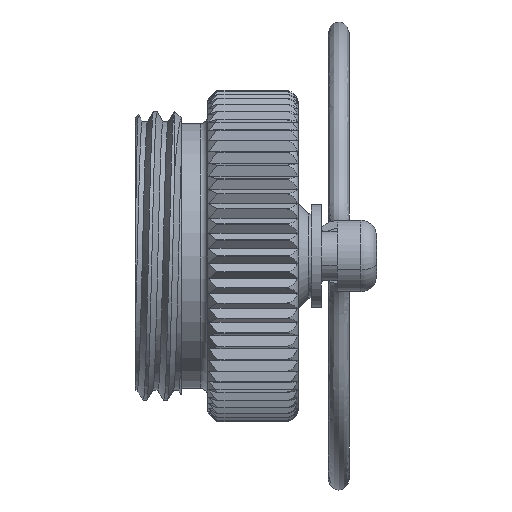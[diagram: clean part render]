
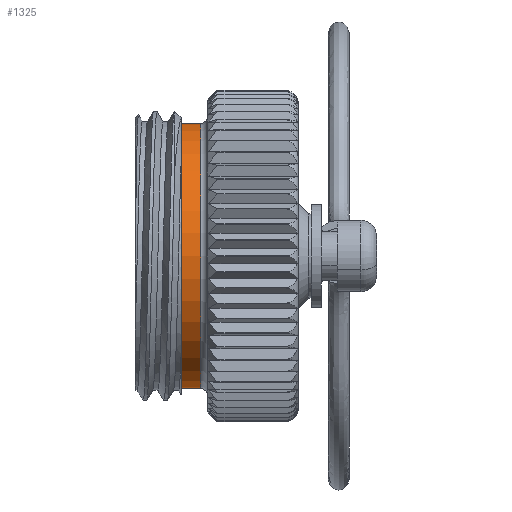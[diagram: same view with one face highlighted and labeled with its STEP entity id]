
A CAD part, front view. The second image highlights one B-rep face of the part: STEP entity #1325.
In plain terms, the highlighted cylindrical face has radius 10.16 mm (diameter 20.32 mm), a partial arc.
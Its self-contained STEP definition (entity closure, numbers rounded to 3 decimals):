
#1133 = ORIENTED_EDGE ( 'NONE', *, *, #6841, .T. ) ;
#1206 = DIRECTION ( 'NONE',  ( -1., 0., 0. ) ) ;
#1242 = CARTESIAN_POINT ( 'NONE',  ( -7.9, 0., -10.16 ) ) ;
#1243 = VECTOR ( 'NONE', #11337, 1000. ) ;
#1325 = ADVANCED_FACE ( 'NONE', ( #14149 ), #6546, .T. ) ;
#1551 = ORIENTED_EDGE ( 'NONE', *, *, #11313, .T. ) ;
#1773 = VERTEX_POINT ( 'NONE', #1930 ) ;
#1930 = CARTESIAN_POINT ( 'NONE',  ( -2., 0., -10.16 ) ) ;
#2182 = DIRECTION ( 'NONE',  ( 0., 0., 1. ) ) ;
#2915 = CARTESIAN_POINT ( 'NONE',  ( -0.5, 0., 10.16 ) ) ;
#3122 = AXIS2_PLACEMENT_3D ( 'NONE', #13555, #7225, #2182 ) ;
#3166 = VERTEX_POINT ( 'NONE', #8163 ) ;
#3413 = EDGE_CURVE ( 'NONE', #3166, #1773, #11140, .T. ) ;
#3424 = DIRECTION ( 'NONE',  ( -1., 0., 0. ) ) ;
#3843 = AXIS2_PLACEMENT_3D ( 'NONE', #16114, #1206, #12400 ) ;
#4038 = LINE ( 'NONE', #14541, #14775 ) ;
#5958 = DIRECTION ( 'NONE',  ( -1., 0., 0. ) ) ;
#6546 = CYLINDRICAL_SURFACE ( 'NONE', #3122, 10.16 ) ;
#6797 = AXIS2_PLACEMENT_3D ( 'NONE', #8482, #5958, #9874 ) ;
#6841 = EDGE_CURVE ( 'NONE', #13456, #9942, #4038, .T. ) ;
#7225 = DIRECTION ( 'NONE',  ( -1., 0., 0. ) ) ;
#8163 = CARTESIAN_POINT ( 'NONE',  ( -0.5, 0., -10.16 ) ) ;
#8482 = CARTESIAN_POINT ( 'NONE',  ( -0.5, 0., 0. ) ) ;
#8919 = EDGE_CURVE ( 'NONE', #1773, #9942, #14644, .T. ) ;
#9476 = ORIENTED_EDGE ( 'NONE', *, *, #3413, .F. ) ;
#9874 = DIRECTION ( 'NONE',  ( 0., 0., 1. ) ) ;
#9942 = VERTEX_POINT ( 'NONE', #11662 ) ;
#11140 = LINE ( 'NONE', #1242, #1243 ) ;
#11313 = EDGE_CURVE ( 'NONE', #3166, #13456, #14025, .T. ) ;
#11337 = DIRECTION ( 'NONE',  ( -1., 0., 0. ) ) ;
#11662 = CARTESIAN_POINT ( 'NONE',  ( -2., 0., 10.16 ) ) ;
#12400 = DIRECTION ( 'NONE',  ( 0., 0., 1. ) ) ;
#13456 = VERTEX_POINT ( 'NONE', #2915 ) ;
#13555 = CARTESIAN_POINT ( 'NONE',  ( -7.9, 0., 0. ) ) ;
#13582 = EDGE_LOOP ( 'NONE', ( #9476, #1551, #1133, #16115 ) ) ;
#14025 = CIRCLE ( 'NONE', #6797, 10.16 ) ;
#14149 = FACE_OUTER_BOUND ( 'NONE', #13582, .T. ) ;
#14541 = CARTESIAN_POINT ( 'NONE',  ( -7.9, 0., 10.16 ) ) ;
#14644 = CIRCLE ( 'NONE', #3843, 10.16 ) ;
#14775 = VECTOR ( 'NONE', #3424, 1000. ) ;
#16114 = CARTESIAN_POINT ( 'NONE',  ( -2., 0., 0. ) ) ;
#16115 = ORIENTED_EDGE ( 'NONE', *, *, #8919, .F. ) ;
